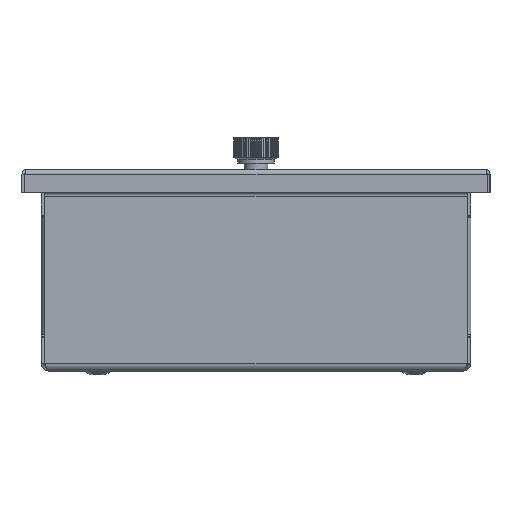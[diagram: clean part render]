
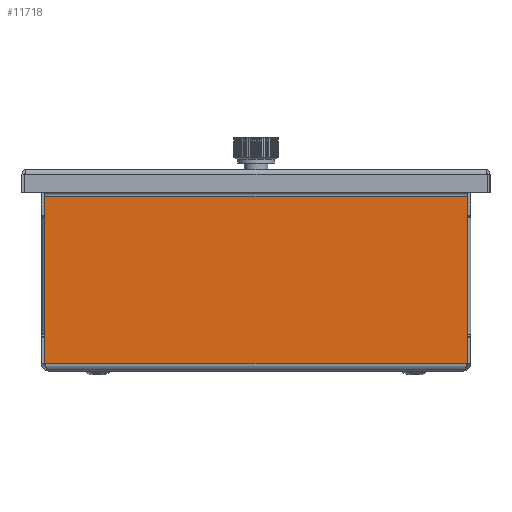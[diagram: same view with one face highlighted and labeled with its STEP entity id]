
A CAD part, left-side view. The second image highlights one B-rep face of the part: STEP entity #11718.
In plain terms, the highlighted planar face has unit normal (-1, 0, 0).
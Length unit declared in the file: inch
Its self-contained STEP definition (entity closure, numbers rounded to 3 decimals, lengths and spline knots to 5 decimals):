
#287=DIRECTION('',(0.,-1.,0.));
#288=VECTOR('',#287,5.5);
#289=CARTESIAN_POINT('',(0.,5.548,0.096));
#290=LINE('',#289,#288);
#4007=DIRECTION('',(0.,1.,0.));
#4008=VECTOR('',#4007,5.5);
#4009=CARTESIAN_POINT('',(0.,0.048,2.279));
#4010=LINE('',#4009,#4008);
#4024=DIRECTION('',(0.,0.,1.));
#4025=VECTOR('',#4024,2.183);
#4026=CARTESIAN_POINT('',(0.,0.048,0.096));
#4027=LINE('',#4026,#4025);
#4036=DIRECTION('',(0.,0.,1.));
#4037=VECTOR('',#4036,2.183);
#4038=CARTESIAN_POINT('',(0.,5.548,0.096));
#4039=LINE('',#4038,#4037);
#5002=CARTESIAN_POINT('',(0.,5.548,0.096));
#5003=CARTESIAN_POINT('',(0.,0.048,0.096));
#5004=VERTEX_POINT('',#5002);
#5005=VERTEX_POINT('',#5003);
#5174=CARTESIAN_POINT('',(0.,0.048,2.279));
#5175=VERTEX_POINT('',#5174);
#5176=CARTESIAN_POINT('',(0.,5.548,2.279));
#5177=VERTEX_POINT('',#5176);
#11706=CARTESIAN_POINT('',(0.,5.596,0.));
#11707=DIRECTION('',(-1.,0.,0.));
#11708=DIRECTION('',(0.,-1.,0.));
#11709=AXIS2_PLACEMENT_3D('',#11706,#11707,#11708);
#11710=PLANE('',#11709);
#11711=ORIENTED_EDGE('',*,*,#11648,.F.);
#11712=ORIENTED_EDGE('',*,*,#11698,.F.);
#11713=ORIENTED_EDGE('',*,*,#6818,.F.);
#11715=ORIENTED_EDGE('',*,*,#11714,.T.);
#11716=EDGE_LOOP('',(#11711,#11712,#11713,#11715));
#11717=FACE_OUTER_BOUND('',#11716,.F.);
#6818=EDGE_CURVE('',#5004,#5005,#290,.T.);
#11648=EDGE_CURVE('',#5175,#5177,#4010,.T.);
#11698=EDGE_CURVE('',#5005,#5175,#4027,.T.);
#11714=EDGE_CURVE('',#5004,#5177,#4039,.T.);
#11718=ADVANCED_FACE('',(#11717),#11710,.T.);
